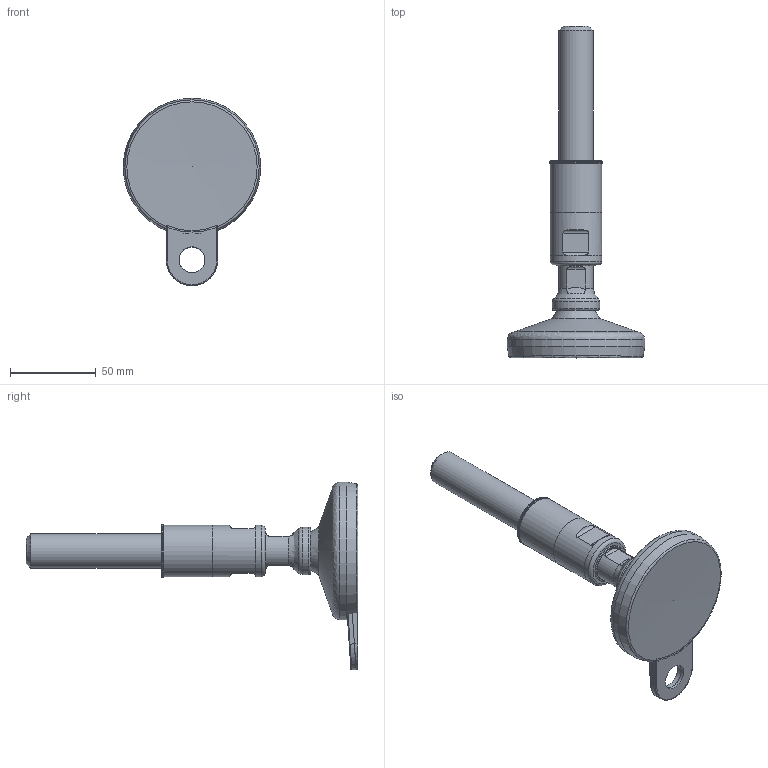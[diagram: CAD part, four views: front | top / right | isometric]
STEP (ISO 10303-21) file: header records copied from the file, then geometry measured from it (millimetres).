
FILE_DESCRIPTION(('STEP AP203'),'2;1');
FILE_NAME('27144F-3A.stp','2017-07-20T08:51:27',(''),(''),'2014.1.117','THINKDESIGN','');
FILE_SCHEMA(('CONFIG_CONTROL_DESIGN'));
Length unit declared in the file: millimetre
Bounding box: 80 x 193 x 109.13 mm (x, y, z)
Volume: 171902.6 mm3; surface area: 54088.4 mm2
Topology: 9 solids, 9 shells, 118 faces, 324 edges, 232 vertices
Faces by surface type: cylinder 41, bspline 39, plane 38
Full cylindrical faces by diameter (mm): 10.3 x1, 15 x2, 16 x2, 17.5 x1, 19.8 x1, 20 x2, 20.2 x2, 22.4 x2, 22.8 x2, 23 x2, 26 x2, 27 x2, 27.5 x1, 30 x3, 30.4 x1, 80 x1
Entity records: 5606 total; most frequent: CARTESIAN_POINT 2523, DIRECTION 633, ORIENTED_EDGE 578, EDGE_CURVE 289, AXIS2_PLACEMENT_3D 277, VERTEX_POINT 204, CIRCLE 194, EDGE_LOOP 125
